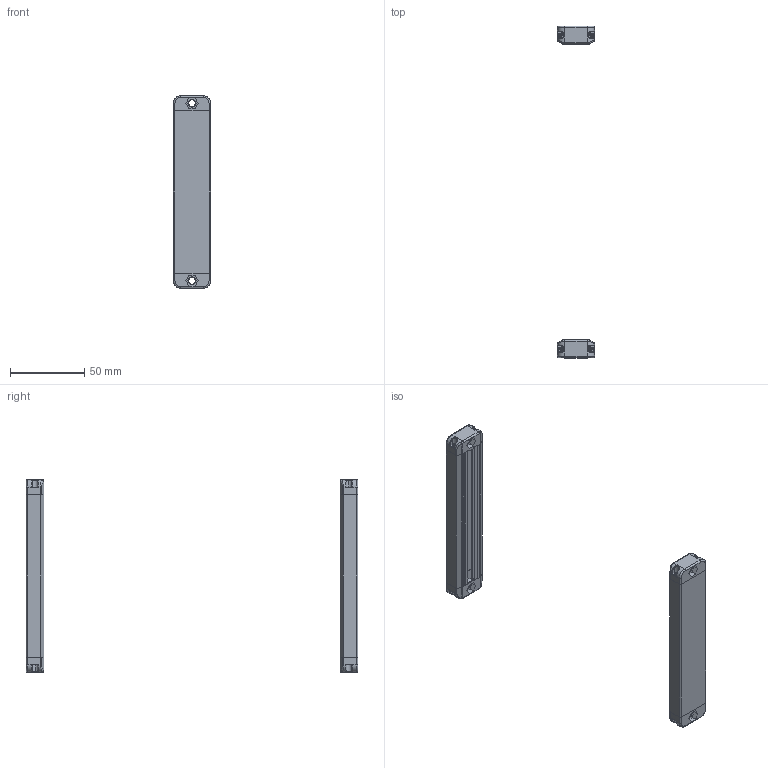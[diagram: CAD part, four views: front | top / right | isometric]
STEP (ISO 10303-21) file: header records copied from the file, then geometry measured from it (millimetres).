
FILE_DESCRIPTION (( 'STEP AP203' ), '1' );
FILE_NAME ('ZDB0620-110.STEP', '2022-08-31T03:06:10', ( 'Windows 蚚誧' ), ( 'Organization' ), 'SwSTEP 2.0', 'SolidWorks 2020', '' );
FILE_SCHEMA (( 'CONFIG_CONTROL_DESIGN' ));
Length unit declared in the file: millimetre
Products named in the file (4): 傷裔衵; 傷裔酘諉彶; 媼啃3臏倰第; ZDB0620-110
Assembly tree (6 placements, depth 2):
  ZDB0620-110
    傷裔衵  x2
    傷裔酘諉彶  x2
    媼啃3臏倰第  x2
Bounding box: 25 x 224 x 130 mm (x, y, z)
Volume: 26488.4 mm3; surface area: 42829.8 mm2
Topology: 6 solids, 6 shells, 650 faces, 1758 edges, 1124 vertices
Faces by surface type: plane 406, cylinder 188, torus 32, bspline 16, sphere 8
Entity records: 11427 total; most frequent: CARTESIAN_POINT 2721, ORIENTED_EDGE 1750, DIRECTION 1687, EDGE_CURVE 875, LINE 631, VECTOR 631, VERTEX_POINT 562, AXIS2_PLACEMENT_3D 528
